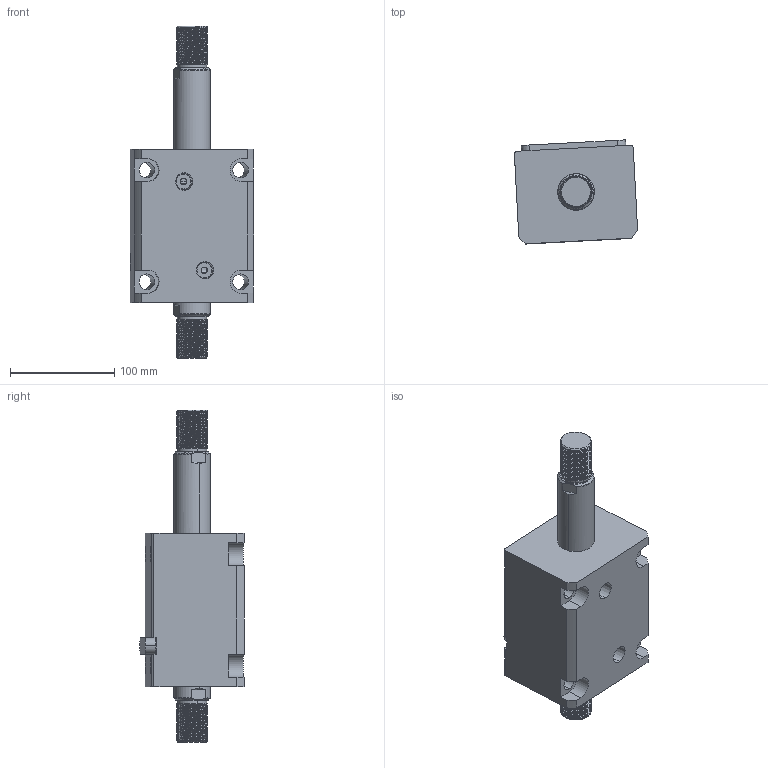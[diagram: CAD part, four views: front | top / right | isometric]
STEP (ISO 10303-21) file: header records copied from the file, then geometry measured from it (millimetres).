
FILE_DESCRIPTION (( 'STEP AP214' ), '1' );
FILE_NAME ('chtb-lw63x65w_asm.STEP', '2018-05-18T08:50:02', ( 'Windows' ), ( 'Microsoft' ), 'SwSTEP 2.0', 'SolidWorks 2015', '' );
FILE_SCHEMA (( 'AUTOMOTIVE_DESIGN' ));
Length unit declared in the file: millimetre
Products named in the file (5): CHTB-63QG; chtb-lw63x65w_asm; CHTB-LA63PJ; CHTB-SW63X65WHSG; CHTB-LW63X65NBT
Assembly tree (4 placements, depth 2):
  chtb-lw63x65w_asm
    CHTB-63QG
    CHTB-LW63X65NBT
    CHTB-SW63X65WHSG
    CHTB-LA63PJ
Bounding box: 118.07 x 99.74 x 318 mm (x, y, z)
Volume: 1410546.4 mm3; surface area: 193094.8 mm2
Topology: 4 solids, 4 shells, 306 faces, 889 edges, 601 vertices
Faces by surface type: cylinder 204, plane 58, bspline 16, cone 16, torus 12
Entity records: 27878 total; most frequent: CARTESIAN_POINT 20531, ORIENTED_EDGE 1770, DIRECTION 1228, EDGE_CURVE 885, VERTEX_POINT 601, AXIS2_PLACEMENT_3D 458, EDGE_LOOP 336, VECTOR 312
